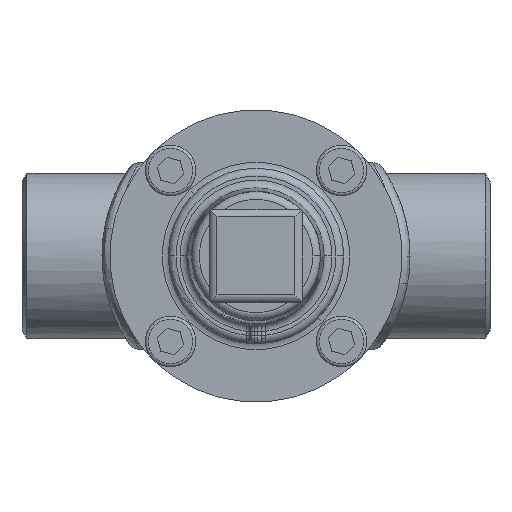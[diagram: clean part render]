
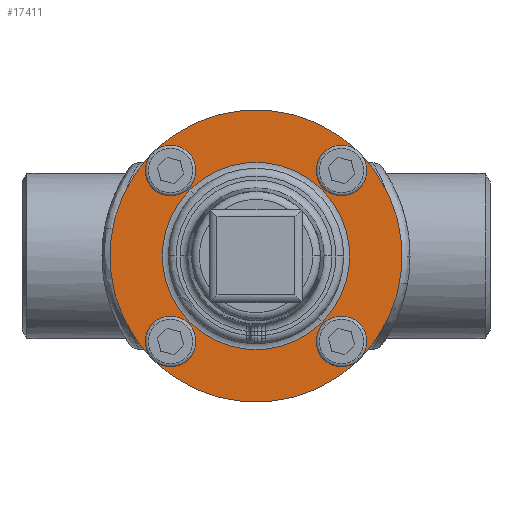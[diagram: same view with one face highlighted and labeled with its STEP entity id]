
A CAD part, front view. The second image highlights one B-rep face of the part: STEP entity #17411.
In plain terms, the highlighted planar face has unit normal (0, -1, 0) as drawn and (0, 0, -1) by its records, which use the part's own axes.
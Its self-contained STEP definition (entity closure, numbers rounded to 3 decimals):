
#69 = CIRCLE ( 'NONE', #70, 24. ) ;
#70 = AXIS2_PLACEMENT_3D ( 'NONE', #71, #91, #92 ) ;
#71 = CARTESIAN_POINT ( 'NONE',  ( 0., 0., -14. ) ) ;
#91 = DIRECTION ( 'NONE',  ( 0., 0., 1. ) ) ;
#92 = DIRECTION ( 'NONE',  ( 1., 0., 0. ) ) ;
#231 = CIRCLE ( 'NONE', #232, 4.5 ) ;
#232 = AXIS2_PLACEMENT_3D ( 'NONE', #233, #234, #235 ) ;
#233 = CARTESIAN_POINT ( 'NONE',  ( 0., 31., -14. ) ) ;
#234 = DIRECTION ( 'NONE',  ( 0., 0., -1. ) ) ;
#235 = DIRECTION ( 'NONE',  ( -1., 0., 0. ) ) ;
#16634 = ORIENTED_EDGE ( 'NONE', *, *, #16281, .F. ) ;
#16652 = ORIENTED_EDGE ( 'NONE', *, *, #16282, .F. ) ;
#282 = EDGE_CURVE ( 'NONE', #21899, #21490, #17720, .T. ) ;
#16874 = VERTEX_POINT ( 'NONE', #11252 ) ;
#17098 = EDGE_CURVE ( 'NONE', #13287, #16874, #11355, .T. ) ;
#17119 = ORIENTED_EDGE ( 'NONE', *, *, #21279, .T. ) ;
#17173 = EDGE_LOOP ( 'NONE', ( #16652, #15778 ) ) ;
#17245 = VERTEX_POINT ( 'NONE', #11455 ) ;
#17411 = ADVANCED_FACE ( 'NONE', ( #11607, #11608, #11609, #11610, #11611, #11612 ), #11628, .F. ) ;
#17430 = EDGE_CURVE ( 'NONE', #5048, #17245, #11651, .T. ) ;
#1273 = CIRCLE ( 'NONE', #1274, 24. ) ;
#1274 = AXIS2_PLACEMENT_3D ( 'NONE', #1275, #1276, #1277 ) ;
#1275 = CARTESIAN_POINT ( 'NONE',  ( 0., 0., -14. ) ) ;
#1276 = DIRECTION ( 'NONE',  ( 0., 0., 1. ) ) ;
#1277 = DIRECTION ( 'NONE',  ( 1., 0., 0. ) ) ;
#17720 = CIRCLE ( 'NONE', #17721, 37.5 ) ;
#17721 = AXIS2_PLACEMENT_3D ( 'NONE', #17738, #17739, #17740 ) ;
#17738 = CARTESIAN_POINT ( 'NONE',  ( 0., 0., -14. ) ) ;
#17739 = DIRECTION ( 'NONE',  ( 0., 0., 1. ) ) ;
#17740 = DIRECTION ( 'NONE',  ( 1., 0., 0. ) ) ;
#1970 = ORIENTED_EDGE ( 'NONE', *, *, #20351, .F. ) ;
#2591 = EDGE_LOOP ( 'NONE', ( #17119, #12490 ) ) ;
#2625 = EDGE_LOOP ( 'NONE', ( #1970, #16634 ) ) ;
#2863 = ORIENTED_EDGE ( 'NONE', *, *, #7158, .F. ) ;
#2954 = ORIENTED_EDGE ( 'NONE', *, *, #282, .F. ) ;
#20351 = EDGE_CURVE ( 'NONE', #13584, #8593, #231, .T. ) ;
#4060 = EDGE_CURVE ( 'NONE', #21490, #21899, #7247, .T. ) ;
#4426 = ORIENTED_EDGE ( 'NONE', *, *, #4060, .F. ) ;
#21279 = EDGE_CURVE ( 'NONE', #9114, #9333, #1273, .T. ) ;
#5048 = VERTEX_POINT ( 'NONE', #8152 ) ;
#21490 = VERTEX_POINT ( 'NONE', #8712 ) ;
#21676 = CARTESIAN_POINT ( 'NONE',  ( 24., 0., -14. ) ) ;
#21852 = CARTESIAN_POINT ( 'NONE',  ( -24., 0., -14. ) ) ;
#21899 = VERTEX_POINT ( 'NONE', #9157 ) ;
#6610 = CARTESIAN_POINT ( 'NONE',  ( -26.5, 0., -14. ) ) ;
#6732 = CIRCLE ( 'NONE', #6733, 4.5 ) ;
#6733 = AXIS2_PLACEMENT_3D ( 'NONE', #6734, #6735, #6736 ) ;
#6734 = CARTESIAN_POINT ( 'NONE',  ( -31., 0., -14. ) ) ;
#6735 = DIRECTION ( 'NONE',  ( 0., 0., -1. ) ) ;
#6736 = DIRECTION ( 'NONE',  ( 0., -1., 0. ) ) ;
#6934 = VERTEX_POINT ( 'NONE', #10714 ) ;
#7058 = CARTESIAN_POINT ( 'NONE',  ( 4.5, -31., -14. ) ) ;
#7158 = EDGE_CURVE ( 'NONE', #13012, #6934, #10904, .T. ) ;
#7247 = CIRCLE ( 'NONE', #7248, 37.5 ) ;
#7248 = AXIS2_PLACEMENT_3D ( 'NONE', #7251, #7252, #7253 ) ;
#7251 = CARTESIAN_POINT ( 'NONE',  ( 0., 0., -14. ) ) ;
#7252 = DIRECTION ( 'NONE',  ( 0., 0., 1. ) ) ;
#7253 = DIRECTION ( 'NONE',  ( 1., 0., 0. ) ) ;
#7350 = CARTESIAN_POINT ( 'NONE',  ( -4.5, 31., -14. ) ) ;
#8152 = CARTESIAN_POINT ( 'NONE',  ( 35.5, 0., -14. ) ) ;
#8153 = CIRCLE ( 'NONE', #8154, 4.5 ) ;
#8154 = AXIS2_PLACEMENT_3D ( 'NONE', #8155, #8156, #8157 ) ;
#8155 = CARTESIAN_POINT ( 'NONE',  ( 0., -31., -14. ) ) ;
#8156 = DIRECTION ( 'NONE',  ( 0., 0., -1. ) ) ;
#8157 = DIRECTION ( 'NONE',  ( 1., 0., 0. ) ) ;
#8593 = VERTEX_POINT ( 'NONE', #12968 ) ;
#8712 = CARTESIAN_POINT ( 'NONE',  ( -37.5, 0., -14. ) ) ;
#9114 = VERTEX_POINT ( 'NONE', #21676 ) ;
#9157 = CARTESIAN_POINT ( 'NONE',  ( 37.5, 0., -14. ) ) ;
#9333 = VERTEX_POINT ( 'NONE', #21852 ) ;
#9552 = EDGE_CURVE ( 'NONE', #9333, #9114, #69, .T. ) ;
#10662 = CIRCLE ( 'NONE', #10663, 4.5 ) ;
#10663 = AXIS2_PLACEMENT_3D ( 'NONE', #10664, #10665, #10666 ) ;
#10664 = CARTESIAN_POINT ( 'NONE',  ( 0., 31., -14. ) ) ;
#10665 = DIRECTION ( 'NONE',  ( 0., 0., -1. ) ) ;
#10666 = DIRECTION ( 'NONE',  ( -1., 0., 0. ) ) ;
#10667 = CIRCLE ( 'NONE', #10668, 4.5 ) ;
#10668 = AXIS2_PLACEMENT_3D ( 'NONE', #10669, #10670, #10674 ) ;
#10669 = CARTESIAN_POINT ( 'NONE',  ( 31., 0., -14. ) ) ;
#10670 = DIRECTION ( 'NONE',  ( 0., 0., -1. ) ) ;
#10674 = DIRECTION ( 'NONE',  ( 0., 1., 0. ) ) ;
#10714 = CARTESIAN_POINT ( 'NONE',  ( -35.5, 0., -14. ) ) ;
#10904 = CIRCLE ( 'NONE', #10905, 4.5 ) ;
#10905 = AXIS2_PLACEMENT_3D ( 'NONE', #10906, #10907, #10908 ) ;
#10906 = CARTESIAN_POINT ( 'NONE',  ( -31., 0., -14. ) ) ;
#10907 = DIRECTION ( 'NONE',  ( 0., 0., -1. ) ) ;
#10908 = DIRECTION ( 'NONE',  ( 0., -1., 0. ) ) ;
#11252 = CARTESIAN_POINT ( 'NONE',  ( -4.5, -31., -14. ) ) ;
#11355 = CIRCLE ( 'NONE', #11356, 4.5 ) ;
#11356 = AXIS2_PLACEMENT_3D ( 'NONE', #11357, #11358, #11359 ) ;
#11357 = CARTESIAN_POINT ( 'NONE',  ( 0., -31., -14. ) ) ;
#11358 = DIRECTION ( 'NONE',  ( 0., 0., -1. ) ) ;
#11359 = DIRECTION ( 'NONE',  ( 1., 0., 0. ) ) ;
#11455 = CARTESIAN_POINT ( 'NONE',  ( 26.5, 0., -14. ) ) ;
#11607 = FACE_BOUND ( 'NONE', #17173, .T. ) ;
#11608 = FACE_BOUND ( 'NONE', #15540, .T. ) ;
#11609 = FACE_BOUND ( 'NONE', #13734, .T. ) ;
#11610 = FACE_BOUND ( 'NONE', #2625, .T. ) ;
#11611 = FACE_BOUND ( 'NONE', #2591, .T. ) ;
#11612 = FACE_OUTER_BOUND ( 'NONE', #12362, .T. ) ;
#11628 = PLANE ( 'NONE',  #11629 ) ;
#11629 = AXIS2_PLACEMENT_3D ( 'NONE', #11630, #11631, #11632 ) ;
#11630 = CARTESIAN_POINT ( 'NONE',  ( 0., 0., -14. ) ) ;
#11631 = DIRECTION ( 'NONE',  ( 0., 0., 1. ) ) ;
#11632 = DIRECTION ( 'NONE',  ( 1., 0., 0. ) ) ;
#11651 = CIRCLE ( 'NONE', #11652, 4.5 ) ;
#11652 = AXIS2_PLACEMENT_3D ( 'NONE', #11653, #11654, #11656 ) ;
#11653 = CARTESIAN_POINT ( 'NONE',  ( 31., 0., -14. ) ) ;
#11654 = DIRECTION ( 'NONE',  ( 0., 0., -1. ) ) ;
#11656 = DIRECTION ( 'NONE',  ( 0., 1., 0. ) ) ;
#12362 = EDGE_LOOP ( 'NONE', ( #2954, #4426 ) ) ;
#12490 = ORIENTED_EDGE ( 'NONE', *, *, #9552, .T. ) ;
#12968 = CARTESIAN_POINT ( 'NONE',  ( 4.5, 31., -14. ) ) ;
#13012 = VERTEX_POINT ( 'NONE', #6610 ) ;
#13037 = EDGE_CURVE ( 'NONE', #6934, #13012, #6732, .T. ) ;
#13209 = ORIENTED_EDGE ( 'NONE', *, *, #13037, .F. ) ;
#13287 = VERTEX_POINT ( 'NONE', #7058 ) ;
#13584 = VERTEX_POINT ( 'NONE', #7350 ) ;
#13734 = EDGE_LOOP ( 'NONE', ( #13209, #2863 ) ) ;
#13974 = ORIENTED_EDGE ( 'NONE', *, *, #17098, .F. ) ;
#14490 = EDGE_CURVE ( 'NONE', #16874, #13287, #8153, .T. ) ;
#14858 = ORIENTED_EDGE ( 'NONE', *, *, #14490, .F. ) ;
#15540 = EDGE_LOOP ( 'NONE', ( #14858, #13974 ) ) ;
#15778 = ORIENTED_EDGE ( 'NONE', *, *, #17430, .F. ) ;
#16281 = EDGE_CURVE ( 'NONE', #8593, #13584, #10662, .T. ) ;
#16282 = EDGE_CURVE ( 'NONE', #17245, #5048, #10667, .T. ) ;
